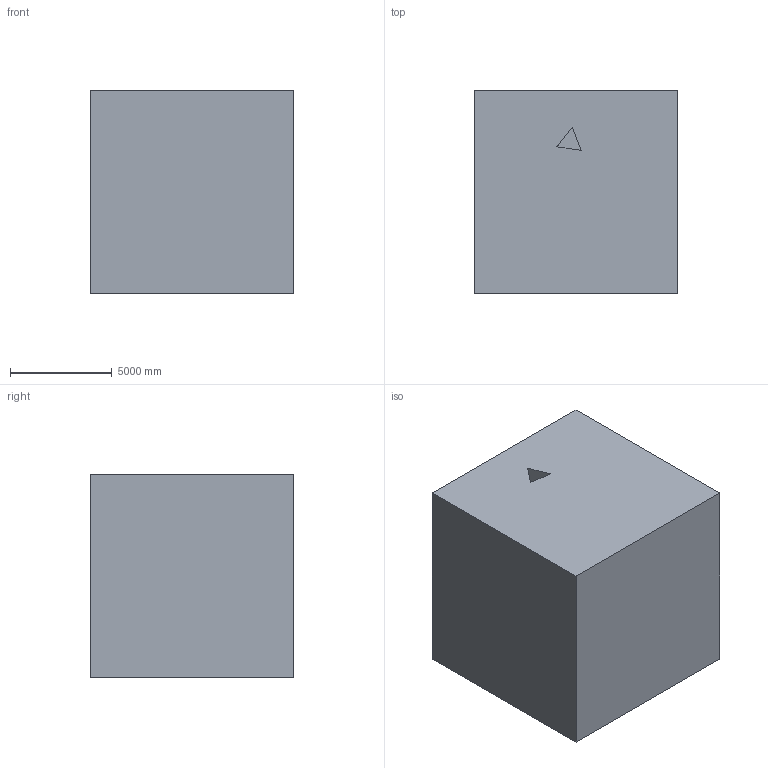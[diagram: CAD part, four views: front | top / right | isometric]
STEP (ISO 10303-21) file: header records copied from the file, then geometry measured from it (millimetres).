
FILE_DESCRIPTION (( 'STEP AP203' ), '1' );
FILE_NAME ('11.STEP', '2022-08-30T14:01:01', ( 'user' ), ( '' ), 'SwSTEP 2.0', 'SolidWorks 2021', '' );
FILE_SCHEMA (( 'CONFIG_CONTROL_DESIGN' ));
Length unit declared in the file: centimetre
Products named in the file (1): 11
Bounding box: 10000 x 10000 x 10000 mm (x, y, z)
Volume: 987262482533.1 mm3; surface area: 661969786.3 mm2
Topology: 1 solids, 1 shells, 16 faces, 33 edges, 22 vertices
Faces by surface type: plane 12, cylinder 4
Entity records: 502 total; most frequent: DIRECTION 75, CARTESIAN_POINT 72, ORIENTED_EDGE 66, EDGE_CURVE 33, AXIS2_PLACEMENT_3D 25, LINE 25, VECTOR 25, VERTEX_POINT 22
